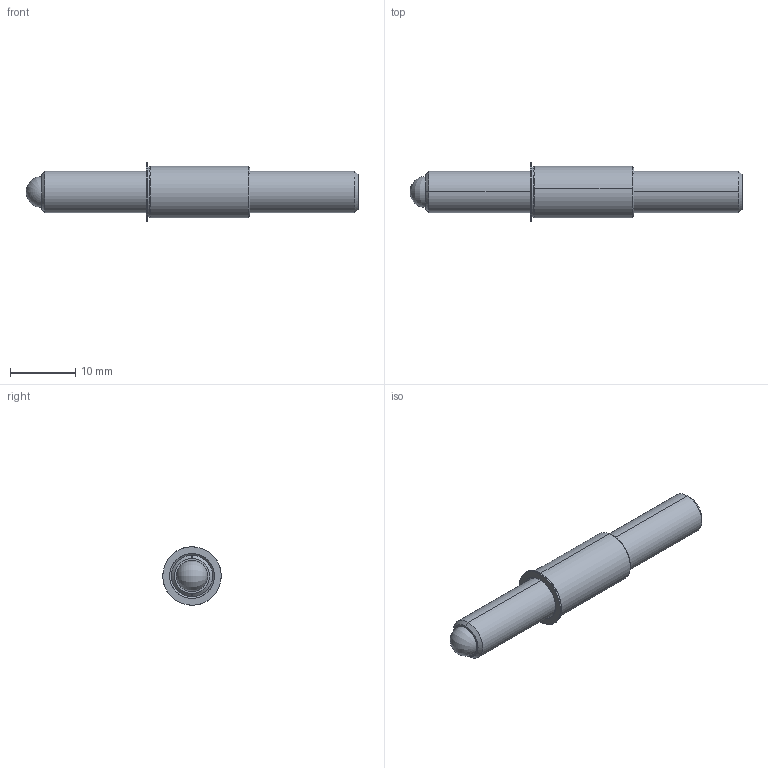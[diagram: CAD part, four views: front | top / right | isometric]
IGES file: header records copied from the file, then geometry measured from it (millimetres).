
Start section: SolidWorks IGES file using analytic representation for surfaces
Global section: file name: C:\Users\workpc\Desktop\KMA Solidworks\TSB250-80-2000_625-AA.IGS; native system: SolidWorks 2013; preprocessor: SolidWorks 2013; author: workpc; date: 130314.085658; units: inch
Bounding box: 50.79 x 8.94 x 8.94 mm (x, y, z)
Surface area: 1546.1 mm2 (no closed solid volume)
Topology: 0 solids, 0 shells, 33 faces, 406 edges, 402 vertices
Faces by surface type: revolution 22, bspline 11
